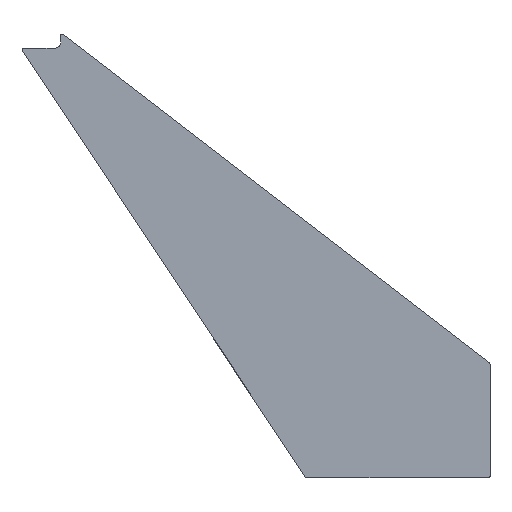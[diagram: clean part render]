
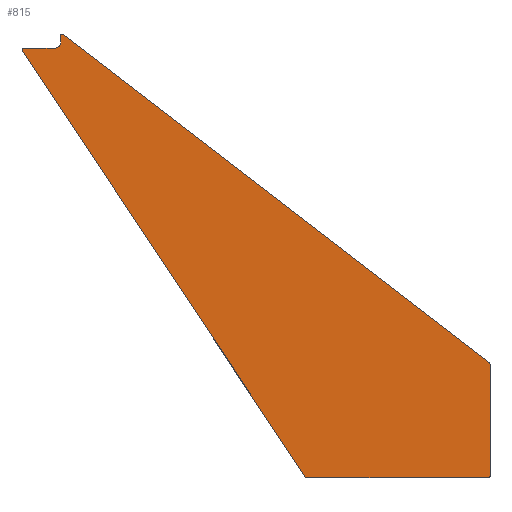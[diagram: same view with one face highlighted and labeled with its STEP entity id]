
A CAD part, top view. The second image highlights one B-rep face of the part: STEP entity #815.
In plain terms, the highlighted planar face has unit normal (0, 0, 1).
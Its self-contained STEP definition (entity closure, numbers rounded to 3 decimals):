
#395=CIRCLE('',#779,12.5);
#397=CIRCLE('',#782,3.);
#398=CIRCLE('',#783,3.);
#399=CIRCLE('',#784,3.);
#400=CIRCLE('',#785,3.);
#401=CIRCLE('',#786,3.);
#421=ORIENTED_EDGE('',*,*,#560,.F.);
#422=ORIENTED_EDGE('',*,*,#564,.F.);
#423=ORIENTED_EDGE('',*,*,#565,.F.);
#424=ORIENTED_EDGE('',*,*,#566,.F.);
#425=ORIENTED_EDGE('',*,*,#567,.T.);
#426=ORIENTED_EDGE('',*,*,#568,.F.);
#427=ORIENTED_EDGE('',*,*,#569,.T.);
#428=ORIENTED_EDGE('',*,*,#570,.F.);
#429=ORIENTED_EDGE('',*,*,#571,.T.);
#430=ORIENTED_EDGE('',*,*,#572,.F.);
#431=ORIENTED_EDGE('',*,*,#573,.F.);
#432=ORIENTED_EDGE('',*,*,#561,.F.);
#488=VECTOR('',#626,1.);
#490=VECTOR('',#638,1.);
#491=VECTOR('',#641,1.);
#492=VECTOR('',#644,1.);
#493=VECTOR('',#647,1.);
#494=VECTOR('',#650,1.);
#512=LINE('',#709,#488);
#514=LINE('',#720,#490);
#515=LINE('',#724,#491);
#516=LINE('',#728,#492);
#517=LINE('',#732,#493);
#518=LINE('',#735,#494);
#534=VERTEX_POINT('',#703);
#536=VERTEX_POINT('',#707);
#537=VERTEX_POINT('',#711);
#539=VERTEX_POINT('',#717);
#540=VERTEX_POINT('',#719);
#541=VERTEX_POINT('',#721);
#542=VERTEX_POINT('',#723);
#543=VERTEX_POINT('',#725);
#544=VERTEX_POINT('',#727);
#545=VERTEX_POINT('',#729);
#546=VERTEX_POINT('',#731);
#547=VERTEX_POINT('',#733);
#560=EDGE_CURVE('',#536,#534,#512,.T.);
#561=EDGE_CURVE('',#534,#537,#395,.T.);
#564=EDGE_CURVE('',#539,#536,#397,.T.);
#565=EDGE_CURVE('',#540,#539,#514,.T.);
#566=EDGE_CURVE('',#541,#540,#398,.T.);
#567=EDGE_CURVE('',#541,#542,#515,.T.);
#568=EDGE_CURVE('',#543,#542,#399,.T.);
#569=EDGE_CURVE('',#543,#544,#516,.T.);
#570=EDGE_CURVE('',#545,#544,#400,.T.);
#571=EDGE_CURVE('',#545,#546,#517,.T.);
#572=EDGE_CURVE('',#547,#546,#401,.T.);
#573=EDGE_CURVE('',#537,#547,#518,.T.);
#595=EDGE_LOOP('',(#421,#422,#423,#424,#425,#426,#427,#428,#429,#430,#431,
#432));
#609=FACE_BOUND('',#595,.T.);
#626=DIRECTION('',(59.164,0.,0.));
#629=DIRECTION('',(0.,0.,1.));
#630=DIRECTION('',(12.5,0.,0.));
#634=DIRECTION('',(0.,0.,1.));
#635=DIRECTION('',(0.,-1.,0.));
#636=DIRECTION('',(0.,0.,-1.));
#637=DIRECTION('',(0.,-3.,0.));
#638=DIRECTION('',(-547.464,824.,0.));
#639=DIRECTION('',(0.,0.,-1.));
#640=DIRECTION('',(0.,-3.,0.));
#641=DIRECTION('',(351.2,0.,0.));
#642=DIRECTION('',(0.,0.,-1.));
#643=DIRECTION('',(0.,-3.,0.));
#644=DIRECTION('',(0.,216.788,0.));
#645=DIRECTION('',(0.,0.,-1.));
#646=DIRECTION('',(0.,-3.,0.));
#647=DIRECTION('',(-824.,634.565,0.));
#648=DIRECTION('',(0.,0.,-1.));
#649=DIRECTION('',(0.,-3.,0.));
#650=DIRECTION('',(0.,11.853,0.));
#703=CARTESIAN_POINT('',(6937.004,13781.36,40.));
#707=CARTESIAN_POINT('',(6877.84,13781.36,40.));
#709=CARTESIAN_POINT('',(6877.84,13781.36,40.));
#711=CARTESIAN_POINT('',(6949.504,13793.86,40.));
#712=CARTESIAN_POINT('',(6937.004,13793.86,40.));
#716=CARTESIAN_POINT('',(0.,0.,40.));
#717=CARTESIAN_POINT('',(6875.341,13776.7,40.));
#718=CARTESIAN_POINT('',(6877.84,13778.36,40.));
#719=CARTESIAN_POINT('',(7422.805,12952.7,40.));
#720=CARTESIAN_POINT('',(7422.805,12952.7,40.));
#721=CARTESIAN_POINT('',(7425.304,12951.36,40.));
#722=CARTESIAN_POINT('',(7425.304,12954.36,40.));
#723=CARTESIAN_POINT('',(7776.504,12951.36,40.));
#724=CARTESIAN_POINT('',(7425.304,12951.36,40.));
#725=CARTESIAN_POINT('',(7779.504,12954.36,40.));
#726=CARTESIAN_POINT('',(7776.504,12954.36,40.));
#727=CARTESIAN_POINT('',(7779.504,13171.148,40.));
#728=CARTESIAN_POINT('',(7779.504,12954.36,40.));
#729=CARTESIAN_POINT('',(7778.334,13173.524,40.));
#730=CARTESIAN_POINT('',(7776.504,13171.148,40.));
#731=CARTESIAN_POINT('',(6954.334,13808.09,40.));
#732=CARTESIAN_POINT('',(7778.334,13173.524,40.));
#733=CARTESIAN_POINT('',(6949.504,13805.713,40.));
#734=CARTESIAN_POINT('',(6952.504,13805.713,40.));
#735=CARTESIAN_POINT('',(6949.504,13793.86,40.));
#779=AXIS2_PLACEMENT_3D('',#712,#629,#630);
#781=AXIS2_PLACEMENT_3D('',#716,#634,#635);
#782=AXIS2_PLACEMENT_3D('',#718,#636,#637);
#783=AXIS2_PLACEMENT_3D('',#722,#639,#640);
#784=AXIS2_PLACEMENT_3D('',#726,#642,#643);
#785=AXIS2_PLACEMENT_3D('',#730,#645,#646);
#786=AXIS2_PLACEMENT_3D('',#734,#648,#649);
#806=PLANE('',#781);
#815=ADVANCED_FACE('',(#609),#806,.T.);
